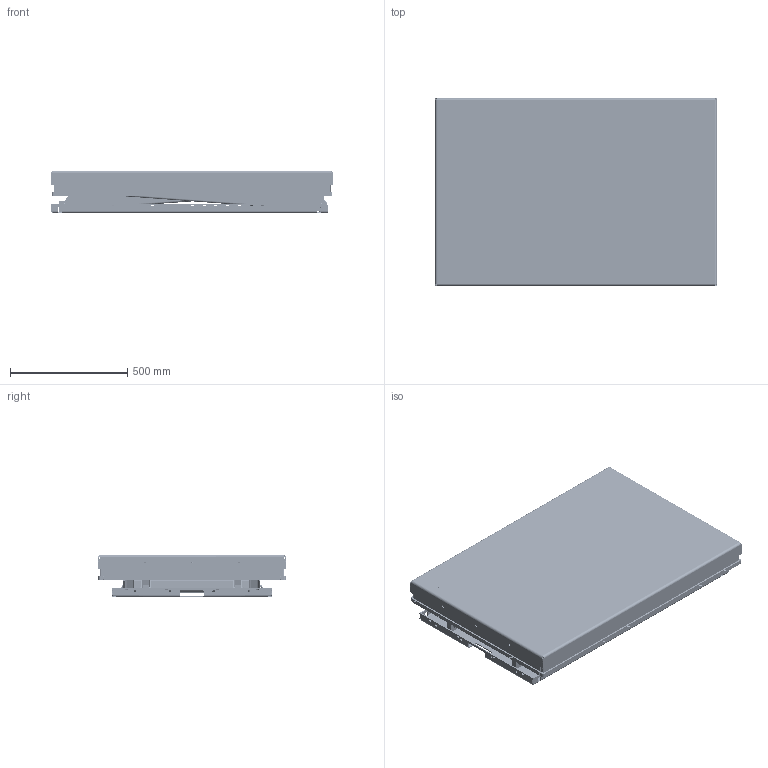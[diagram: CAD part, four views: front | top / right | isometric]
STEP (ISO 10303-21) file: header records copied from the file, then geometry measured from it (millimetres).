
FILE_DESCRIPTION(/* description */ ('Bottenramsplåt'),/* implementation_level */ '2;1');
FILE_NAME(/* name */ 'C:\Autodesk_VaultWork\Ritningar\Exporterade modeller\TL 1001B - (33024)\33024_Collapsed.stp',/* time_stamp */ '2018-03-08T10:33:20+01:00',/* author */ ('johso'),/* organization */ (''),/* preprocessor_version */ 'ST-DEVELOPER v16.5',/* originating_system */ 'Autodesk Inventor 2017',/* authorisation */ '');
FILE_SCHEMA (('AUTOMOTIVE_DESIGN { 1 0 10303 214 3 1 1 }'));
Products named in the file (1): 33024_Closed-Height
Bounding box: 1200.1 x 800 x 180 mm (x, y, z)
Volume: 14576718.8 mm3; surface area: 7100451.3 mm2
Topology: 147 solids, 147 shells, 5483 faces, 14465 edges, 9401 vertices
Faces by surface type: plane 2766, cylinder 1849, bspline 530, cone 216, torus 74, sphere 48
Full cylindrical faces by diameter (mm): 0.474 x2, 1 x4, 3 x4, 3.141 x4, 3.2 x4, 3.242 x4, 4 x14, 4.3 x4, 4.9 x2, 5 x4, 5.2 x6, 5.3 x4, 6.647 x4, 6.8 x4, 7.4 x6, 7.6 x4, 8 x12, 8.376 x8, 8.5 x4, 9 x1, 10 x18, 10.2 x16, 10.5 x25, 11 x12, 11.63 x6, 12 x5, 12.5 x6, 13 x4, 14.63 x8, 16 x26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
Entity records: 188376 total; most frequent: CARTESIAN_POINT 55710, ORIENTED_EDGE 27728, DIRECTION 26477, EDGE_CURVE 13861, VERTEX_POINT 9300, AXIS2_PLACEMENT_3D 9196, LINE 8085, VECTOR 8085
